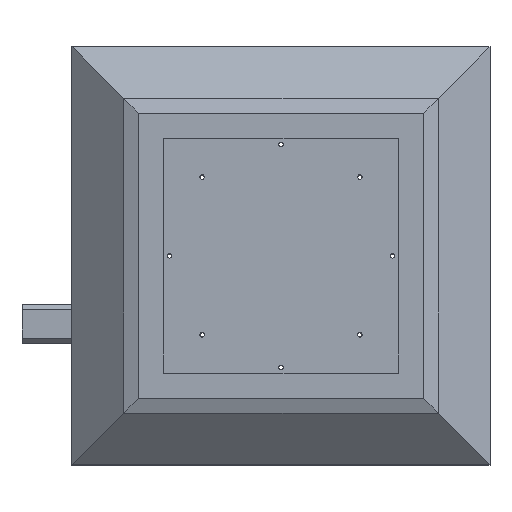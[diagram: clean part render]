
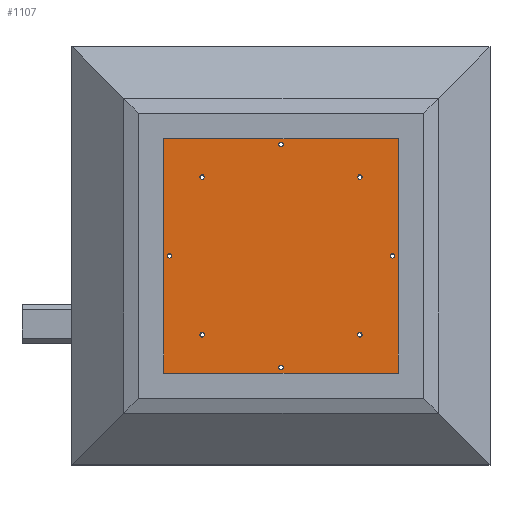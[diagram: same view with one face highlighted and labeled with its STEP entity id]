
A CAD part, top view. The second image highlights one B-rep face of the part: STEP entity #1107.
In plain terms, the highlighted planar face has unit normal (0, 0, 1).
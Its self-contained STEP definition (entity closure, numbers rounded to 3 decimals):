
#31=CIRCLE('',#1169,4.);
#33=CIRCLE('',#1172,4.);
#35=CIRCLE('',#1175,4.);
#37=CIRCLE('',#1178,4.);
#39=CIRCLE('',#1181,4.);
#41=CIRCLE('',#1184,4.);
#43=CIRCLE('',#1187,4.);
#45=CIRCLE('',#1190,4.);
#60=FACE_BOUND('',#185,.T.);
#61=FACE_BOUND('',#186,.T.);
#62=FACE_BOUND('',#187,.T.);
#63=FACE_BOUND('',#188,.T.);
#64=FACE_BOUND('',#189,.T.);
#65=FACE_BOUND('',#190,.T.);
#66=FACE_BOUND('',#191,.T.);
#67=FACE_BOUND('',#192,.T.);
#110=FACE_OUTER_BOUND('',#184,.T.);
#184=EDGE_LOOP('',(#803,#804,#805,#806));
#185=EDGE_LOOP('',(#807));
#186=EDGE_LOOP('',(#808));
#187=EDGE_LOOP('',(#809));
#188=EDGE_LOOP('',(#810));
#189=EDGE_LOOP('',(#811));
#190=EDGE_LOOP('',(#812));
#191=EDGE_LOOP('',(#813));
#192=EDGE_LOOP('',(#814));
#273=LINE('',#1711,#388);
#276=LINE('',#1716,#391);
#278=LINE('',#1720,#393);
#279=LINE('',#1722,#394);
#388=VECTOR('',#1364,10.);
#391=VECTOR('',#1369,10.);
#393=VECTOR('',#1373,10.);
#394=VECTOR('',#1376,10.);
#495=VERTEX_POINT('',#1668);
#497=VERTEX_POINT('',#1673);
#499=VERTEX_POINT('',#1678);
#501=VERTEX_POINT('',#1683);
#503=VERTEX_POINT('',#1688);
#505=VERTEX_POINT('',#1693);
#507=VERTEX_POINT('',#1698);
#509=VERTEX_POINT('',#1703);
#511=VERTEX_POINT('',#1708);
#512=VERTEX_POINT('',#1710);
#513=VERTEX_POINT('',#1714);
#514=VERTEX_POINT('',#1718);
#601=EDGE_CURVE('',#495,#495,#31,.T.);
#603=EDGE_CURVE('',#497,#497,#33,.T.);
#605=EDGE_CURVE('',#499,#499,#35,.T.);
#607=EDGE_CURVE('',#501,#501,#37,.T.);
#609=EDGE_CURVE('',#503,#503,#39,.T.);
#611=EDGE_CURVE('',#505,#505,#41,.T.);
#613=EDGE_CURVE('',#507,#507,#43,.T.);
#615=EDGE_CURVE('',#509,#509,#45,.T.);
#618=EDGE_CURVE('',#511,#512,#273,.T.);
#621=EDGE_CURVE('',#513,#511,#276,.T.);
#623=EDGE_CURVE('',#514,#513,#278,.T.);
#624=EDGE_CURVE('',#512,#514,#279,.T.);
#803=ORIENTED_EDGE('',*,*,#624,.F.);
#804=ORIENTED_EDGE('',*,*,#618,.F.);
#805=ORIENTED_EDGE('',*,*,#621,.F.);
#806=ORIENTED_EDGE('',*,*,#623,.F.);
#807=ORIENTED_EDGE('',*,*,#601,.T.);
#808=ORIENTED_EDGE('',*,*,#603,.T.);
#809=ORIENTED_EDGE('',*,*,#605,.T.);
#810=ORIENTED_EDGE('',*,*,#607,.T.);
#811=ORIENTED_EDGE('',*,*,#609,.T.);
#812=ORIENTED_EDGE('',*,*,#611,.T.);
#813=ORIENTED_EDGE('',*,*,#613,.T.);
#814=ORIENTED_EDGE('',*,*,#615,.T.);
#989=PLANE('',#1196);
#1107=ADVANCED_FACE('',(#110,#60,#61,#62,#63,#64,#65,#66,#67),#989,.F.);
#1169=AXIS2_PLACEMENT_3D('',#1669,#1315,#1316);
#1172=AXIS2_PLACEMENT_3D('',#1674,#1321,#1322);
#1175=AXIS2_PLACEMENT_3D('',#1679,#1327,#1328);
#1178=AXIS2_PLACEMENT_3D('',#1684,#1333,#1334);
#1181=AXIS2_PLACEMENT_3D('',#1689,#1339,#1340);
#1184=AXIS2_PLACEMENT_3D('',#1694,#1345,#1346);
#1187=AXIS2_PLACEMENT_3D('',#1699,#1351,#1352);
#1190=AXIS2_PLACEMENT_3D('',#1704,#1357,#1358);
#1196=AXIS2_PLACEMENT_3D('',#1723,#1377,#1378);
#1315=DIRECTION('center_axis',(0.,0.,-1.));
#1316=DIRECTION('ref_axis',(0.707,0.707,0.));
#1321=DIRECTION('center_axis',(0.,0.,-1.));
#1322=DIRECTION('ref_axis',(0.,1.,0.));
#1327=DIRECTION('center_axis',(0.,0.,-1.));
#1328=DIRECTION('ref_axis',(-0.707,0.707,0.));
#1333=DIRECTION('center_axis',(0.,0.,-1.));
#1334=DIRECTION('ref_axis',(-1.,0.,0.));
#1339=DIRECTION('center_axis',(0.,0.,-1.));
#1340=DIRECTION('ref_axis',(-0.707,-0.707,0.));
#1345=DIRECTION('center_axis',(0.,0.,-1.));
#1346=DIRECTION('ref_axis',(0.,-1.,0.));
#1351=DIRECTION('center_axis',(0.,0.,-1.));
#1352=DIRECTION('ref_axis',(0.707,-0.707,0.));
#1357=DIRECTION('center_axis',(0.,0.,-1.));
#1358=DIRECTION('ref_axis',(1.,0.,0.));
#1364=DIRECTION('',(0.,1.,0.));
#1369=DIRECTION('',(-1.,0.,0.));
#1373=DIRECTION('',(0.,-1.,0.));
#1376=DIRECTION('',(1.,0.,0.));
#1377=DIRECTION('center_axis',(0.,0.,-1.));
#1378=DIRECTION('ref_axis',(-1.,0.,0.));
#1668=CARTESIAN_POINT('',(-142.482,-142.482,401.));
#1669=CARTESIAN_POINT('Origin',(-139.654,-139.654,401.));
#1673=CARTESIAN_POINT('',(0.,-201.5,401.));
#1674=CARTESIAN_POINT('Origin',(0.,-197.5,401.));
#1678=CARTESIAN_POINT('',(142.482,-142.482,401.));
#1679=CARTESIAN_POINT('Origin',(139.654,-139.654,401.));
#1683=CARTESIAN_POINT('',(201.5,0.,401.));
#1684=CARTESIAN_POINT('Origin',(197.5,0.,401.));
#1688=CARTESIAN_POINT('',(142.482,142.482,401.));
#1689=CARTESIAN_POINT('Origin',(139.654,139.654,401.));
#1693=CARTESIAN_POINT('',(0.,201.5,401.));
#1694=CARTESIAN_POINT('Origin',(0.,197.5,401.));
#1698=CARTESIAN_POINT('',(-142.482,142.482,401.));
#1699=CARTESIAN_POINT('Origin',(-139.654,139.654,401.));
#1703=CARTESIAN_POINT('',(-201.5,0.,401.));
#1704=CARTESIAN_POINT('Origin',(-197.5,0.,401.));
#1708=CARTESIAN_POINT('',(-207.5,-207.5,401.));
#1710=CARTESIAN_POINT('',(-207.5,207.5,401.));
#1711=CARTESIAN_POINT('',(-207.5,207.5,401.));
#1714=CARTESIAN_POINT('',(207.5,-207.5,401.));
#1716=CARTESIAN_POINT('',(-207.5,-207.5,401.));
#1718=CARTESIAN_POINT('',(207.5,207.5,401.));
#1720=CARTESIAN_POINT('',(207.5,-207.5,401.));
#1722=CARTESIAN_POINT('',(207.5,207.5,401.));
#1723=CARTESIAN_POINT('Origin',(0.,0.,
401.));
